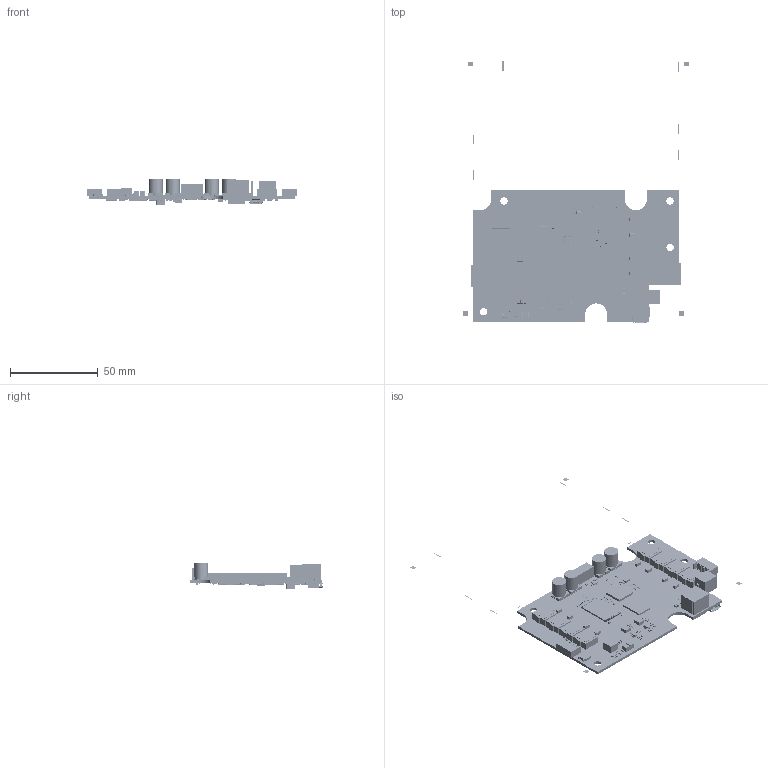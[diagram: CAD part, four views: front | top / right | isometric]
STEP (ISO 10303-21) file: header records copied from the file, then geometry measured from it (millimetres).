
FILE_DESCRIPTION(('STEP AP214'),'1');
FILE_NAME('AI2MAX_AMP_A113X_REV_031_210405-3D.step','2021-04-06T01:45:02',(' '),(' '),'Spatial InterOp 3D','XD3DPlugin XRACreate',' ');
FILE_SCHEMA(('automotive_design'));
Length unit declared in the file: millimetre
Products named in the file (273): Submodel-D:\Artwork\Artwork\ALTECH\AI2MAX_AMP\REV031\1.PCB\AI2MAX_AMP_A113X_REV_031_210405-3D_PCB\3D\Input_S\RES1005.xtd; RES1005; Submodel-R1005_part_simplified_R1005; DesignRootModel; Submodel-D:\Artwork\Artwork\ALTECH\AI2MAX_AMP\REV031\1.PCB\AI2MAX_AMP_A113X_REV_031_210405-3D_PCB\3D\Input_S\CAP3225_H2_9.xtd; CAP3225_H2_9; Submodel-C3225_part_simplified_C3225; Submodel-D:\Artwork\Artwork\ALTECH\AI2MAX_AMP\REV031\1.PCB\AI2MAX_AMP_A113X_REV_031_210405-3D_PCB\3D\Input_S\CAP1005_H0_7.xtd; CAP1005_H0_7; Submodel-C1005_part_simplified_C1005; Submodel-D:\Artwork\Artwork\ALTECH\AI2MAX_AMP\REV031\1.PCB\AI2MAX_AMP_A113X_REV_031_210405-3D_PCB\3D\Input_S\CAP3216_H1_8.xtd; CAP3216_H1_8; Submodel-C3216_part_simplified_C3216; Submodel-D:\Artwork\Artwork\ALTECH\AI2MAX_AMP\REV031\1.PCB\AI2MAX_AMP_A113X_REV_031_210405-3D_PCB\3D\Input_S\ALCAP_8PI_H10.xtd; ALCAP_8PI_H10; Submodel-ECAP_8PI_H10_part_simplified_ECAP_8PI_H10; Submodel-D:\Artwork\Artwork\ALTECH\AI2MAX_AMP\REV031\1.PCB\AI2MAX_AMP_A113X_REV_031_210405-3D_PCB\3D\Input_S\RES1608.xtd; RES1608; Submodel-R1608_part_simplified_R1608; Submodel-D:\Artwork\Artwork\ALTECH\AI2MAX_AMP\REV031\1.PCB\AI2MAX_AMP_A113X_REV_031_210405-3D_PCB\3D\Input_S\CAP1608_H1_1.xtd; CAP1608_H1_1; Submodel-C1608_part_simplified_C1608; Submodel-D:\Artwork\Artwork\ALTECH\AI2MAX_AMP\REV031\1.PCB\AI2MAX_AMP_A113X_REV_031_210405-3D_PCB\3D\Input_S\SOP23-6P_H1_3.xtd; SOP23-6P_H1_3; Submodel-SOT23-6P_TMI3252S_part_simplified_SOT23-6P_TMI3252S; uid__9223372036855096900; Submodel-noModelForPart_TP1_0PI_2921635714; placementOutline; Submodel-TP1_0PI_2921635714_part_TP1_0PI; Submodel-noModelForPart_SWPA8040S_399281028; Submodel-SWPA8040S_399281028_part_SWPA8040S; Submodel-D:\Artwork\Artwork\ALTECH\AI2MAX_AMP\REV031\1.PCB\AI2MAX_AMP_A113X_REV_031_210405-3D_PCB\3D\ImportedPartModels\SOT583_MP2330C_MNP.step; SOT583_MP2330C_MNP.step; Submodel-SOT583_MP2338_part_SOT583_MP2338; Submodel-noModelForPart_MISSING_HOLE_3_3375377121; Submodel-MISSING_HOLE_3_3375377121_part_MISSING_HOLE_3; Submodel-noModelForPart_MISSING_HOLE_2494809629; Submodel-MISSING_HOLE_2494809629_part_MISSING_HOLE; Submodel-D:\Artwork\Artwork\ALTECH\AI2MAX_AMP\REV031\1.PCB\AI2MAX_AMP_A113X_REV_031_210405-3D_PCB\3D\ImportedPartModels\10118192C.stp; 10118192C.stp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
Assembly tree (767 placements, depth 5):
  ProductRootModel
    DesignRootModel
      Submodel-R1005_part_simplified_R1005  x149
        Submodel-D:\Artwork\Artwork\ALTECH\AI2MAX_AMP\REV031\1.PCB\AI2MAX_AMP_A113X_REV_031_210405-3D_PCB\3D\Input_S\RES1005.xtd
          RES1005
      Submodel-C3225_part_simplified_C3225  x2
        Submodel-D:\Artwork\Artwork\ALTECH\AI2MAX_AMP\REV031\1.PCB\AI2MAX_AMP_A113X_REV_031_210405-3D_PCB\3D\Input_S\CAP3225_H2_9.xtd
          CAP3225_H2_9
      Submodel-C1005_part_simplified_C1005  x87
        Submodel-D:\Artwork\Artwork\ALTECH\AI2MAX_AMP\REV031\1.PCB\AI2MAX_AMP_A113X_REV_031_210405-3D_PCB\3D\Input_S\CAP1005_H0_7.xtd
          CAP1005_H0_7
      Submodel-C3216_part_simplified_C3216  x8
        Submodel-D:\Artwork\Artwork\ALTECH\AI2MAX_AMP\REV031\1.PCB\AI2MAX_AMP_A113X_REV_031_210405-3D_PCB\3D\Input_S\CAP3216_H1_8.xtd
          CAP3216_H1_8
      Submodel-ECAP_8PI_H10_part_simplified_ECAP_8PI_H10  x4
        Submodel-D:\Artwork\Artwork\ALTECH\AI2MAX_AMP\REV031\1.PCB\AI2MAX_AMP_A113X_REV_031_210405-3D_PCB\3D\Input_S\ALCAP_8PI_H10.xtd
          ALCAP_8PI_H10
      Submodel-R1608_part_simplified_R1608  x8
        Submodel-D:\Artwork\Artwork\ALTECH\AI2MAX_AMP\REV031\1.PCB\AI2MAX_AMP_A113X_REV_031_210405-3D_PCB\3D\Input_S\RES1608.xtd
          RES1608
      Submodel-C1608_part_simplified_C1608  x64
        Submodel-D:\Artwork\Artwork\ALTECH\AI2MAX_AMP\REV031\1.PCB\AI2MAX_AMP_A113X_REV_031_210405-3D_PCB\3D\Input_S\CAP1608_H1_1.xtd
          CAP1608_H1_1
      Submodel-SOT23-6P_TMI3252S_part_simplified_SOT23-6P_TMI3252S  x4
        Submodel-D:\Artwork\Artwork\ALTECH\AI2MAX_AMP\REV031\1.PCB\AI2MAX_AMP_A113X_REV_031_210405-3D_PCB\3D\Input_S\SOP23-6P_H1_3.xtd
          SOP23-6P_H1_3
      uid__9223372036855096900
      Submodel-TP1_0PI_2921635714_part_TP1_0PI  x14
        Submodel-noModelForPart_TP1_0PI_2921635714
          placementOutline
          placementOutline
          placementOutline
      Submodel-SWPA8040S_399281028_part_SWPA8040S  x8
        Submodel-noModelForPart_SWPA8040S_399281028
          placementOutline
          placementOutline
          placementOutline
      Submodel-SOT583_MP2338_part_SOT583_MP2338
        Submodel-D:\Artwork\Artwork\ALTECH\AI2MAX_AMP\REV031\1.PCB\AI2MAX_AMP_A113X_REV_031_210405-3D_PCB\3D\ImportedPartModels\SOT583_MP2330C_MNP.step
          SOT583_MP2330C_MNP.step
      Submodel-MISSING_HOLE_3_3375377121_part_MISSING_HOLE_3  x4
        Submodel-noModelForPart_MISSING_HOLE_3_3375377121
          placementOutline
      Submodel-MISSING_HOLE_2494809629_part_MISSING_HOLE  x12
        Submodel-noModelForPart_MISSING_HOLE_2494809629
          placementOutline
      Submodel-MICRO_USB_10118192_part_MICRO_USB_10118192
        Submodel-D:\Artwork\Artwork\ALTECH\AI2MAX_AMP\REV031\1.PCB\AI2MAX_AMP_A113X_REV_031_210405-3D_PCB\3D\ImportedPartModels\10118192C.stp
          10118192C.stp
      Submodel-NTH2_5_2320227396_part_NTH2_5  x4
        Submodel-noModelForPart_NTH2_5_2320227396
          placementOutline
      Submodel-SWPA6045S_2627920464_part_SWPA6045S
        Submodel-noModelForPart_SWPA6045S_2627920464
          placementOutline
          placementOutline
          placementOutline
      Submodel-COIL_SMPI0402BW_4248940756_part_COIL_SMPI0402BW
        Submodel-noModelForPart_COIL_SMPI0402BW_4248940756
          placementOutline
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Bounding box: 128 x 149.34 x 15.1 mm (x, y, z)
Volume: 26837.8 mm3; surface area: 36703.2 mm2
Topology: 1834 solids, 2466 shells, 24670 faces, 56548 edges, 32806 vertices
Faces by surface type: plane 11664, cylinder 9514, sphere 3380, bspline 108, torus 4
Full cylindrical faces by diameter (mm): 0.065 x1, 0.09 x4, 0.152 x1, 0.2 x42, 0.6 x42, 1.005 x42, 2 x1, 4.2 x4, 7 x4, 8 x4
Entity records: 137896 total; most frequent: CARTESIAN_POINT 22065, DIRECTION 17409, ORIENTED_EDGE 12680, EDGE_CURVE 8096, VERTEX_POINT 6346, LINE 6023, VECTOR 6023, AXIS2_PLACEMENT_3D 5693
